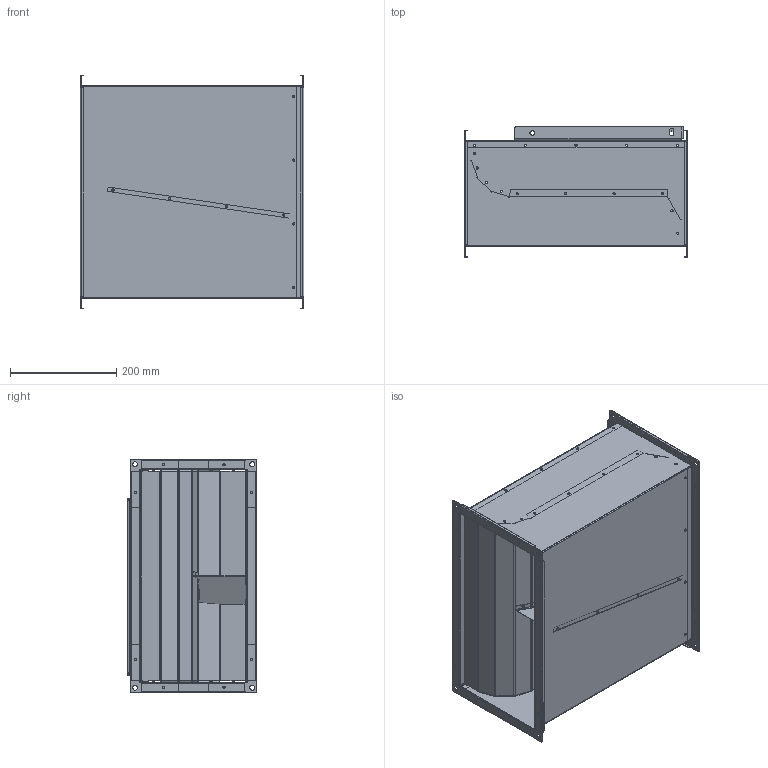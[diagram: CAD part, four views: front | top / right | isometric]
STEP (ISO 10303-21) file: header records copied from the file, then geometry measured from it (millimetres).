
FILE_DESCRIPTION (( 'STEP AP203' ), '1' );
FILE_NAME ('145647-00_KVR04020E230_step.step', '2018-06-19T10:00:14', ( '' ), ( '' ), 'SwSTEP 2.0', 'SolidWorks 2017', '' );
FILE_SCHEMA (( 'CONFIG_CONTROL_DESIGN' ));
Length unit declared in the file: millimetre
Products named in the file (1): 145647-00_KVR04020E230_step
Bounding box: 420.4 x 244.2 x 438.4 mm (x, y, z)
Surface area: 1842492.5 mm2 (no closed solid volume)
Topology: 0 solids, 50 shells, 912 faces, 2808 edges, 1901 vertices
Faces by surface type: cylinder 521, plane 352, bspline 27, torus 8, cone 4
Entity records: 32548 total; most frequent: CARTESIAN_POINT 6933, DIRECTION 5496, ORIENTED_EDGE 4646, EDGE_CURVE 2808, AXIS2_PLACEMENT_3D 1970, VERTEX_POINT 1901, VECTOR 1556, LINE 1556
